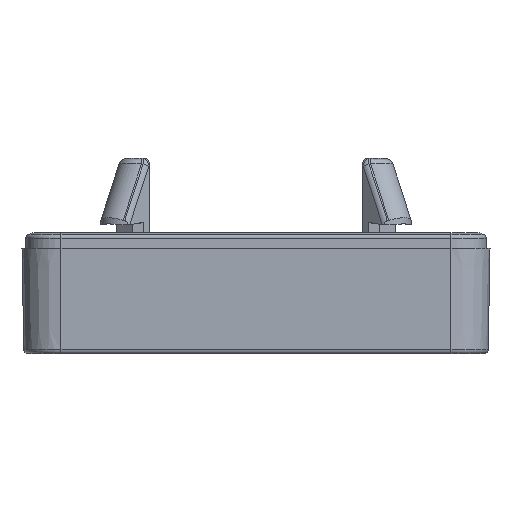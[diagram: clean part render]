
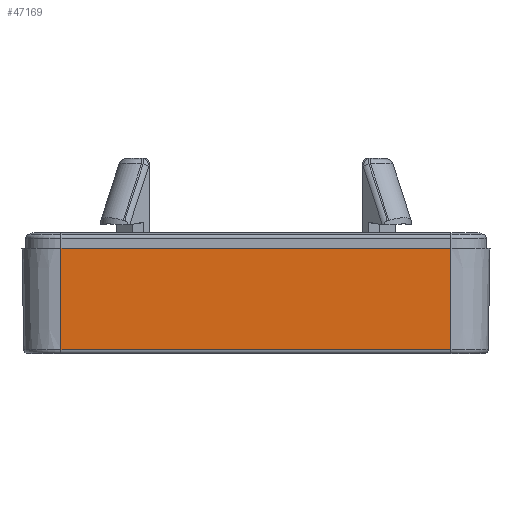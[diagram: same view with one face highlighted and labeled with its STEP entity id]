
A CAD part, left-side view. The second image highlights one B-rep face of the part: STEP entity #47169.
In plain terms, the highlighted planar face has unit normal (-1, 0, -0.018).
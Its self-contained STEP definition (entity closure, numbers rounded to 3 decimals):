
#2599=PLANE('',#51327);
#5348=FACE_OUTER_BOUND('',#8429,.T.);
#8429=EDGE_LOOP('',(#39413,#39414,#39415,#39416));
#13882=LINE('',#88483,#17727);
#13884=LINE('',#88493,#17729);
#13885=LINE('',#88495,#17730);
#13886=LINE('',#88496,#17731);
#17727=VECTOR('',#60998,10.);
#17729=VECTOR('',#61012,10.);
#17730=VECTOR('',#61013,10.);
#17731=VECTOR('',#61014,10.);
#22591=VERTEX_POINT('',#88476);
#22592=VERTEX_POINT('',#88481);
#22594=VERTEX_POINT('',#88492);
#22595=VERTEX_POINT('',#88494);
#28574=EDGE_CURVE('',#22591,#22592,#13882,.T.);
#28578=EDGE_CURVE('',#22594,#22591,#13884,.T.);
#28579=EDGE_CURVE('',#22595,#22594,#13885,.T.);
#28580=EDGE_CURVE('',#22595,#22592,#13886,.T.);
#39413=ORIENTED_EDGE('',*,*,#28574,.F.);
#39414=ORIENTED_EDGE('',*,*,#28578,.F.);
#39415=ORIENTED_EDGE('',*,*,#28579,.F.);
#39416=ORIENTED_EDGE('',*,*,#28580,.T.);
#47169=ADVANCED_FACE('',(#5348),#2599,.F.);
#51327=AXIS2_PLACEMENT_3D('',#88491,#61010,#61011);
#60998=DIRECTION('',(0.,1.,0.));
#61010=DIRECTION('center_axis',(1.,0.,
0.017));
#61011=DIRECTION('ref_axis',(0.017,0.,-1.));
#61012=DIRECTION('',(0.017,0.,-1.));
#61013=DIRECTION('',(0.,-1.,0.));
#61014=DIRECTION('',(0.017,0.,-1.));
#88476=CARTESIAN_POINT('',(-73.773,-25.,-13.009));
#88481=CARTESIAN_POINT('',(-73.773,25.,-13.009));
#88483=CARTESIAN_POINT('',(-73.773,19.916,-13.009));
#88491=CARTESIAN_POINT('Origin',(-74.,25.,0.));
#88492=CARTESIAN_POINT('',(-74.,-25.,0.));
#88493=CARTESIAN_POINT('',(-73.764,-25.,-13.5));
#88494=CARTESIAN_POINT('',(-74.,25.,0.));
#88495=CARTESIAN_POINT('',(-74.,0.,0.));
#88496=CARTESIAN_POINT('',(-73.764,25.,-13.5));
